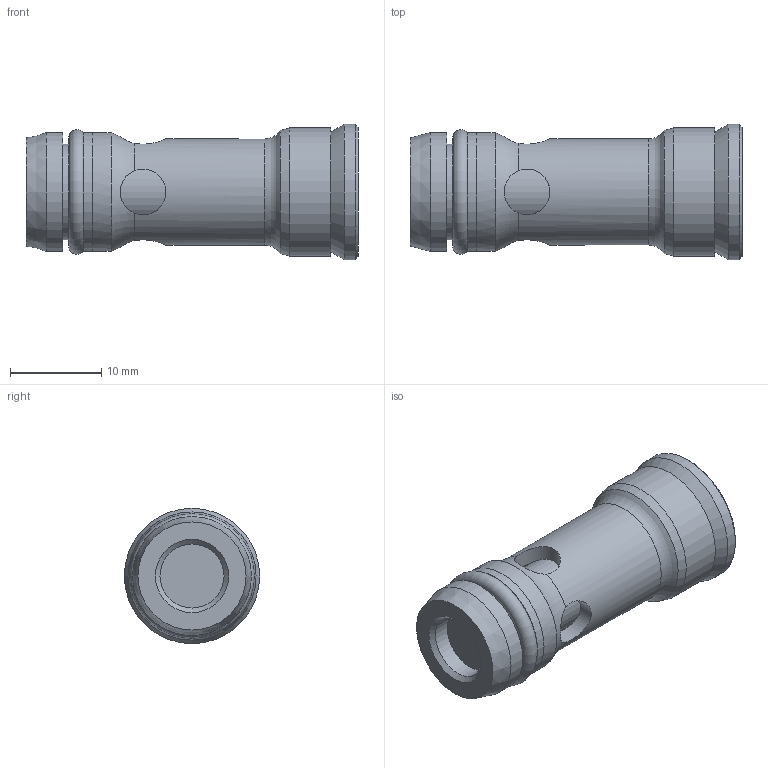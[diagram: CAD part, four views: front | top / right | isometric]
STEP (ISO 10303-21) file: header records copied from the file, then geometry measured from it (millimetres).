
FILE_DESCRIPTION(/* description */ (''),/* implementation_level */ '2;1');
FILE_NAME(/* name */ 'M-SR8插入式单向阀.prt.stp',/* time_stamp */ '2022-03-30T19:10:08+08:00',/* author */ (''),/* organization */ (''),/* preprocessor_version */ 'ST-DEVELOPER v16.7',/* originating_system */ 'SIEMENS PLM Software NX 12.0',/* authorisation */ '');
FILE_SCHEMA (('AUTOMOTIVE_DESIGN { 1 0 10303 214 3 1 1 1 }'));
Length unit declared in the file: millimetre
Products named in the file (1): M-SR8插入式单向阀
Bounding box: 36.3 x 14.8 x 14.8 mm (x, y, z)
Volume: 4174.7 mm3; surface area: 2831.3 mm2
Topology: 4 solids, 4 shells, 40 faces, 89 edges, 57 vertices
Faces by surface type: cylinder 17, plane 13, cone 7, torus 3
Full cylindrical faces by diameter (mm): 2.5 x1, 4.7 x1, 5 x4, 7 x1, 8 x1, 8.3 x1, 10.4 x2, 11.6 x1, 13 x3, 14 x1, 14.8 x1
Entity records: 1416 total; most frequent: CARTESIAN_POINT 640, DIRECTION 156, ORIENTED_EDGE 98, EDGE_LOOP 80, FACE_BOUND 79, AXIS2_PLACEMENT_3D 78, EDGE_CURVE 49, VERTEX_POINT 46
